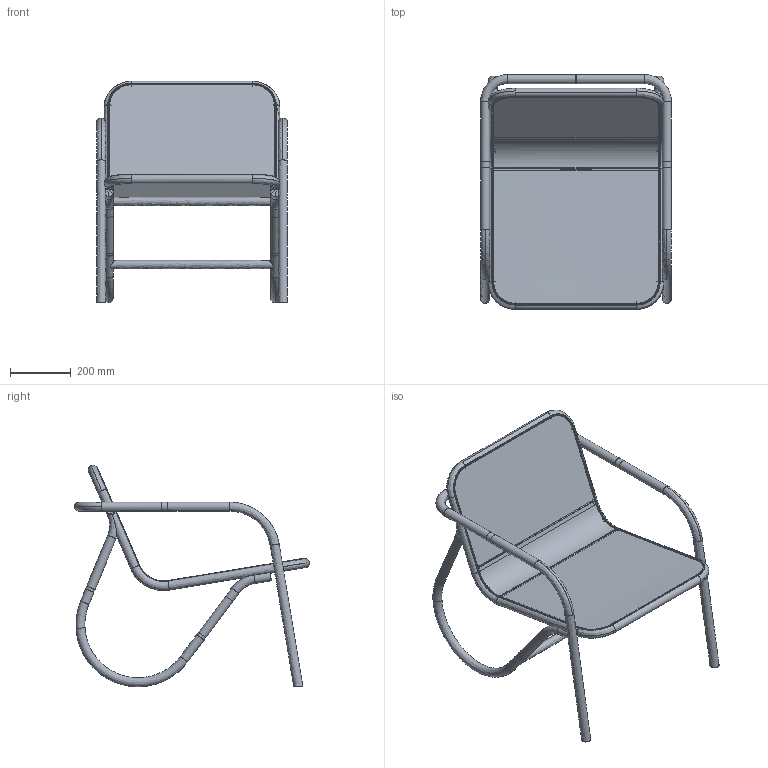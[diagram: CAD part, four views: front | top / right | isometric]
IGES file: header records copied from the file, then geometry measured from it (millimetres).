
Global section: file name: \\192.168.4.99\ufficio_tecnico\02 - PRODOTTI IN PRODUZIONE\N.200\03 - DISEGNI 3D\N.200.igs; native system: Rhinoceros ( May 22 2017 ); preprocessor: Trout Lake IGES 012 May 22 2017; date: 190522.124104; units: millimetre
Bounding box: 630 x 775.3 x 731.68 mm (x, y, z)
Surface area: 1507075.7 mm2 (no closed solid volume)
Topology: 0 solids, 0 shells, 217 faces, 1232 edges, 1152 vertices
Faces by surface type: bspline 217
